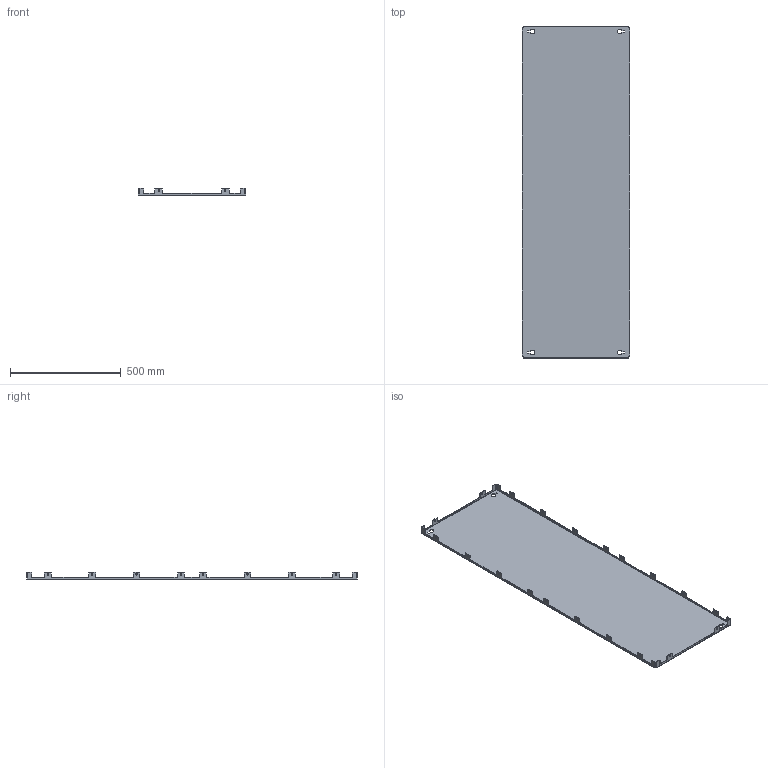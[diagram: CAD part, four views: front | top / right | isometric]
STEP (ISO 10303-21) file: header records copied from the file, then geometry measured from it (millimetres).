
FILE_DESCRIPTION (( 'STEP AP203' ), '1' );
FILE_NAME ('R5LPS1606.STEP', '2021-12-17T12:43:56', ( '' ), ( '' ), 'SwSTEP 2.0', 'SolidWorks 2020', '' );
FILE_SCHEMA (( 'CONFIG_CONTROL_DESIGN' ));
Length unit declared in the file: millimetre
Products named in the file (1): R5LPS1606
Bounding box: 484 x 1498 x 32.5 mm (x, y, z)
Volume: 1536431.7 mm3; surface area: 1548551.3 mm2
Topology: 1 solids, 1 shells, 380 faces, 1102 edges, 724 vertices
Faces by surface type: plane 242, cylinder 138
Entity records: 12659 total; most frequent: CARTESIAN_POINT 2207, ORIENTED_EDGE 2204, DIRECTION 2140, EDGE_CURVE 1102, LINE 826, VECTOR 826, VERTEX_POINT 724, AXIS2_PLACEMENT_3D 657
